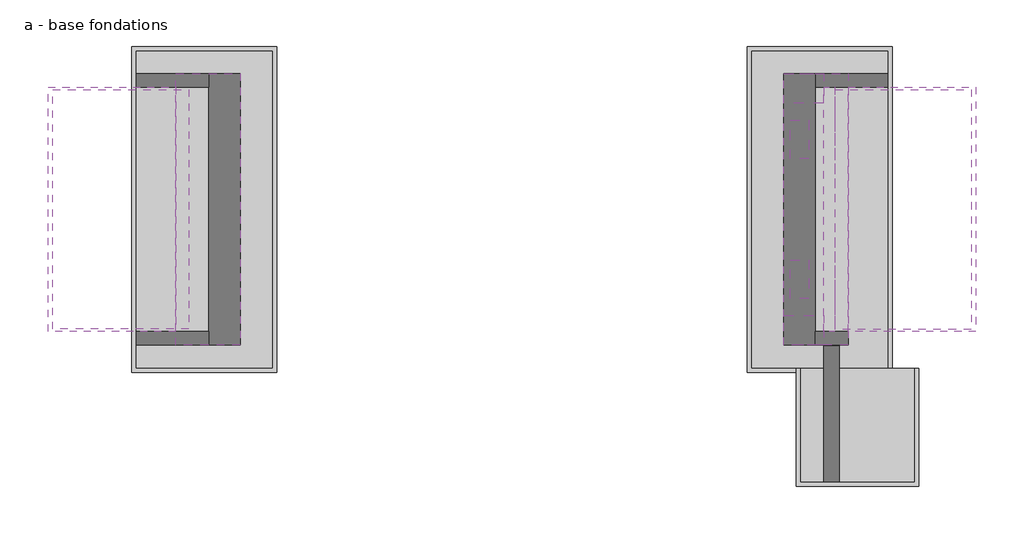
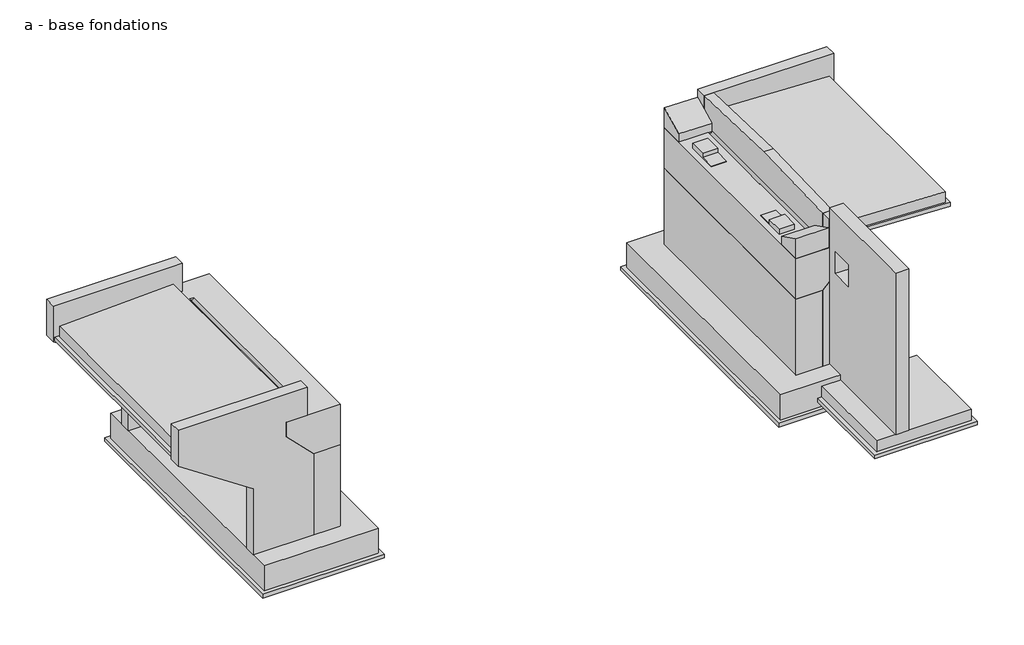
# One storey, incomplete: 24 proxies.
"""IFC4 building model written with IfcOpenShell, lengths in millimetres."""

import ifcopenshell
import ifcopenshell.guid

model = None  # the IFC model being written
_history = None  # IfcOwnerHistory: only IFC2X3 demands one
_inside = {}  # id of a spatial element -> (the spatial element, [elements in it])
_under = {}  # id of a project, library or spatial element -> (it, [spatial elements below it])
_declared = {}  # id of a project -> (the project, [libraries it declares])
_typed = {}  # id of a type object -> (the type object, [elements of that type])
_made_of = {}  # id of a material, layer set ... -> (it, [elements and type objects made of it])


def new_model(schema):
    """Start an empty IFC model of exactly this schema.

    Asked for "IFC4X3", IfcOpenShell would pick the latest addendum, in which some entities
    have other attributes; the version numbers below select the first issue.
    IFC2X3 requires an IfcOwnerHistory on every rooted entity: one is made here for all.
    """
    global model, _history
    if schema == "IFC4X3":
        model = ifcopenshell.file(schema_version=(4, 3, 0, 0))
    else:
        model = ifcopenshell.file(schema=schema)
    _inside.clear()
    _under.clear()
    _declared.clear()
    _typed.clear()
    _made_of.clear()
    _history = None
    if model.schema == "IFC2X3":
        org = make("IfcOrganization", Name="unknown")
        user = make(
            "IfcPersonAndOrganization",
            ThePerson=make("IfcPerson", FamilyName="unknown"),
            TheOrganization=org,
        )
        app = make(
            "IfcApplication",
            ApplicationDeveloper=org,
            Version="unknown",
            ApplicationFullName="unknown",
            ApplicationIdentifier="unknown",
        )
        _history = make(
            "IfcOwnerHistory",
            OwningUser=user,
            OwningApplication=app,
            ChangeAction="ADDED",
            CreationDate=0,
        )
    return model


def make(cls, **values):
    """One entity of the class cls with the attributes given. An attribute that is None is left unset."""
    return model.create_entity(
        cls, **{name: value for name, value in values.items() if value is not None}
    )


def rooted(cls, **values):
    """An entity with a GlobalId (a new one), such as an element, a storey or a relation."""
    return make(cls, GlobalId=ifcopenshell.guid.new(), OwnerHistory=_history, **values)


def si_unit(unit_type, name, prefix=None):
    """IfcSIUnit, for example si_unit("LENGTHUNIT", "METRE", prefix="MILLI")."""
    return make("IfcSIUnit", UnitType=unit_type, Prefix=prefix, Name=name)


def assignment(units):
    """IfcUnitAssignment: the units of a project."""
    return None if units is None else make("IfcUnitAssignment", Units=units)


def point(xyz):
    """IfcCartesianPoint."""
    return None if xyz is None else make("IfcCartesianPoint", Coordinates=xyz)


def direction(xyz):
    """IfcDirection."""
    return None if xyz is None else make("IfcDirection", DirectionRatios=xyz)


def frame(location, z_axis=None, x_axis=None):
    """IfcAxis2Placement3D, a coordinate frame: its origin and axes. An axis left out is left unset."""
    return make(
        "IfcAxis2Placement3D",
        Location=point(location),
        Axis=direction(z_axis),
        RefDirection=direction(x_axis),
    )


def origin():
    """The frame at (0, 0, 0) with its axes left unset."""
    return frame((0.0, 0.0, 0.0))


def origin_with_axes():
    """The frame at (0, 0, 0) with the z axis (0, 0, 1) and the x axis (1, 0, 0) written out."""
    return frame((0.0, 0.0, 0.0), z_axis=(0.0, 0.0, 1.0), x_axis=(1.0, 0.0, 0.0))


def place(relative_to, where):
    """IfcLocalPlacement: puts the frame where relative to a parent placement (None: the world)."""
    return make(
        "IfcLocalPlacement", PlacementRelTo=relative_to, RelativePlacement=where
    )


def context(
    kind, dimensions, precision=None, world=None, true_north=None, identifier=None
):
    """IfcGeometricRepresentationContext, for example the 3D "Model" context."""
    return make(
        "IfcGeometricRepresentationContext",
        ContextIdentifier=identifier,
        ContextType=kind,
        CoordinateSpaceDimension=dimensions,
        Precision=precision,
        WorldCoordinateSystem=world,
        TrueNorth=true_north,
    )


def project(units=None, contexts=None):
    """IfcProject with its units and contexts."""
    return rooted(
        "IfcProject",
        Name="project",
        RepresentationContexts=contexts,
        UnitsInContext=assignment(units),
    )


def spatial(cls, under=None, at=None, **own):
    """A site, building, storey or space (cls), placed at a placement, below another one or the project."""
    s = rooted(cls, ObjectPlacement=at, **own)
    if under is not None:
        _under.setdefault(under.id(), (under, []))[1].append(s)
    return s


def polyline(points):
    """IfcPolyline through the points."""
    return make("IfcPolyline", Points=[point(p) for p in points])


def circle_curve(where, radius):
    """IfcCircle in the frame where."""
    return make("IfcCircle", Position=where, Radius=radius)


def outline(outer, holes=None, kind="AREA"):
    """IfcArbitraryClosedProfileDef: a profile drawn as a closed curve; with holes, ...WithVoids."""
    if holes is None:
        return make("IfcArbitraryClosedProfileDef", ProfileType=kind, OuterCurve=outer)
    return make(
        "IfcArbitraryProfileDefWithVoids",
        ProfileType=kind,
        OuterCurve=outer,
        InnerCurves=holes,
    )


def extrude(swept, where, along, depth):
    """IfcExtrudedAreaSolid: the profile swept, set in the frame where, extruded along a direction by depth."""
    return make(
        "IfcExtrudedAreaSolid",
        SweptArea=swept,
        Position=where,
        ExtrudedDirection=direction(along),
        Depth=depth,
    )


def faces_of(points, faces, orient=None, outer=None):
    """IfcFace entities. A face is a list of loops; a loop is a list of indices into points, from 0.

    orient and outer hold one flag for each loop. By default every Orientation is true, the
    first loop of a face is its IfcFaceOuterBound and the others are IfcFaceBound.
    """
    made = []
    for i, loops in enumerate(faces):
        bounds = []
        for j, loop in enumerate(loops):
            is_outer = j == 0 if outer is None else outer[i][j]
            bounds.append(
                make(
                    "IfcFaceOuterBound" if is_outer else "IfcFaceBound",
                    Bound=make("IfcPolyLoop", Polygon=[points[k] for k in loop]),
                    Orientation=True if orient is None else orient[i][j],
                )
            )
        made.append(make("IfcFace", Bounds=bounds))
    return made


def faceted_brep(points, faces, orient=None, outer=None, voids=None):
    """IfcFacetedBrep: a solid bounded by flat faces; with voids (closed shells), ...WithVoids."""
    shared = [point(p) for p in points]
    hull = make("IfcClosedShell", CfsFaces=faces_of(shared, faces, orient, outer))
    if voids is None:
        return make("IfcFacetedBrep", Outer=hull)
    return make(
        "IfcFacetedBrepWithVoids",
        Outer=hull,
        Voids=[
            make(cls, CfsFaces=faces_of(shared, fs, o, b)) for cls, fs, o, b in voids
        ],
    )


def shape(context_of_items, identifier, shape_type, items):
    """IfcShapeRepresentation: the items that make up one representation, for example the "Body"."""
    return make(
        "IfcShapeRepresentation",
        ContextOfItems=context_of_items,
        RepresentationIdentifier=identifier,
        RepresentationType=shape_type,
        Items=items,
    )


def source(mapping_origin, context_of_items, identifier, shape_type, items):
    """IfcRepresentationMap: a shape defined once, which mapped items show again and again."""
    return make(
        "IfcRepresentationMap",
        MappingOrigin=mapping_origin,
        MappedRepresentation=shape(context_of_items, identifier, shape_type, items),
    )


def transform(
    local_origin,
    x_axis=None,
    y_axis=None,
    z_axis=None,
    scale=None,
    scale2=None,
    scale3=None,
    uniform=True,
):
    """IfcCartesianTransformationOperator3D, or its non-uniform kind. x_axis, y_axis, z_axis: its Axis1, 2, 3."""
    if uniform:
        return make(
            "IfcCartesianTransformationOperator3D",
            Axis1=direction(x_axis),
            Axis2=direction(y_axis),
            LocalOrigin=point(local_origin),
            Scale=scale,
            Axis3=direction(z_axis),
        )
    return make(
        "IfcCartesianTransformationOperator3DnonUniform",
        Axis1=direction(x_axis),
        Axis2=direction(y_axis),
        LocalOrigin=point(local_origin),
        Scale=scale,
        Axis3=direction(z_axis),
        Scale2=scale2,
        Scale3=scale3,
    )


def mapped(mapping_source, mapping_target):
    """IfcMappedItem: shows the shape of a source again, moved by a transform."""
    return make(
        "IfcMappedItem", MappingSource=mapping_source, MappingTarget=mapping_target
    )


def made_of(thing, what):
    """Note that an element or type object is made of a material, layer set ...; save() writes the relation."""
    if what is not None:
        _made_of.setdefault(what.id(), (what, []))[1].append(thing)
    return thing


def element(
    cls,
    number,
    at=None,
    inside=None,
    cuts=None,
    type_object=None,
    material=None,
    context=None,
    identifier="Body",
    shape_type=None,
    held_by="IfcProductDefinitionShape",
    body=None,
    shapes=None,
    **own,
):
    """One element of the class cls, such as IfcWall. Its Tag is "e" and its number.

    at: its placement. inside: the storey or other place that contains it. cuts: it is an
    opening in that element (IfcRelVoidsElement). A single representation is given by context,
    identifier, shape_type and body (its items); several are given by shapes. held_by: the class
    of the entity that holds the representations. save() writes the other relations.
    """
    e = rooted(cls, Tag="e%d" % number, ObjectPlacement=at, **own)
    if body is not None:
        shapes = [shape(context, identifier, shape_type, body)]
    if shapes is not None:
        e.Representation = make(held_by, Representations=shapes)
    if inside is not None:
        _inside.setdefault(inside.id(), (inside, []))[1].append(e)
    if cuts is not None:
        rooted(
            "IfcRelVoidsElement", RelatingBuildingElement=cuts, RelatedOpeningElement=e
        )
    if type_object is not None:
        _typed.setdefault(type_object.id(), (type_object, []))[1].append(e)
    return made_of(e, material)


def aggregate(whole, parts):
    """IfcRelAggregates: a whole, such as a stair, and the parts it consists of."""
    return rooted("IfcRelAggregates", RelatingObject=whole, RelatedObjects=parts)


def save(model, path):
    """Write the relations noted so far, then the file.

    IfcRelAggregates (storeys below a building ...), IfcRelContainedInSpatialStructure (elements
    in a storey), IfcRelDefinesByType, IfcRelAssociatesMaterial and IfcRelDeclares: one each for
    every whole, place, type object, material and project.
    """
    for whole, parts in _under.values():
        aggregate(whole, parts)
    for where, things in _inside.values():
        rooted(
            "IfcRelContainedInSpatialStructure",
            RelatedElements=things,
            RelatingStructure=where,
        )
    for kind, things in _typed.values():
        rooted("IfcRelDefinesByType", RelatedObjects=things, RelatingType=kind)
    for what, things in _made_of.values():
        rooted("IfcRelAssociatesMaterial", RelatedObjects=things, RelatingMaterial=what)
    for by, libraries in _declared.values():
        rooted("IfcRelDeclares", RelatingContext=by, RelatedDefinitions=libraries)
    model.write(path)


def plane_surface(at):
    """IfcPlane: the flat surface through the origin of the frame at, square to its z axis."""
    return make("IfcPlane", Position=at)


def revolved_surface(curve, axis_point, axis_direction):
    """IfcSurfaceOfRevolution: the curve turned about the line through axis_point along axis_direction."""
    return make(
        "IfcSurfaceOfRevolution",
        SweptCurve=make("IfcArbitraryOpenProfileDef", ProfileType="CURVE", Curve=curve),
        AxisPosition=make("IfcAxis1Placement", Location=point(axis_point), Axis=direction(axis_direction)),
    )


def advanced_brep(points, edges, surfaces, faces):
    """IfcAdvancedBrep: a solid bounded by faces that lie on surfaces and meet in shared edges.

    An edge is (start, end): straight between two places in points (the first is 0);
    or (start, end, curve); or (start, end, curve, False) where it runs against its curve.
    A face is (place in surfaces, loops), or (place, loops, False) where it looks against
    its surface's normal. A loop lists edges by number (the first is 1), with a minus sign
    where the edge is run from its end to its start. The first loop is the outer one.
    """
    corners = [point(p) for p in points]
    vertices = [make("IfcVertexPoint", VertexGeometry=c) for c in corners]
    made = []
    for start, end, *more in edges:
        made.append(
            make(
                "IfcEdgeCurve",
                EdgeStart=vertices[start],
                EdgeEnd=vertices[end],
                EdgeGeometry=more[0] if more else make("IfcPolyline", Points=[corners[start], corners[end]]),
                SameSense=more[1] if len(more) > 1 else True,
            )
        )
    hull = []
    for where, loops, *sense in faces:
        bounds = []
        for j, loop in enumerate(loops):
            ring = [make("IfcOrientedEdge", EdgeElement=made[abs(k) - 1], Orientation=k > 0) for k in loop]
            bounds.append(
                make(
                    "IfcFaceOuterBound" if j == 0 else "IfcFaceBound",
                    Bound=make("IfcEdgeLoop", EdgeList=ring),
                    Orientation=True,
                )
            )
        hull.append(make("IfcAdvancedFace", Bounds=bounds, FaceSurface=surfaces[where], SameSense=sense[0] if sense else True))
    return make("IfcAdvancedBrep", Outer=make("IfcClosedShell", CfsFaces=hull))


def generic_models_be5d55c7(model_context):
    return source(origin(), model_context, "Body", "AdvancedBrep", [
        advanced_brep(
        [(-6700.0, 3000.0, 2960.0), (-7430.0, 3000.0, 3690.0), (-7430.0, 3000.0, 4090.0), (-6000.0, 3000.0, 4090.0), (-6000.0, 3000.0, 2960.0), (-6700.0, -3000.0, 2960.0), (-6000.0, -3000.0, 2960.0), (-6000.0, -3000.0, 4090.0), (-7430.0, -3000.0, 4090.0), (-7430.0, -3000.0, 3690.0), (-6880.0, 2350.0, 4090.0), (-6780.0, 2350.0, 4090.0), (-6780.0, -2350.0, 4090.0), (-6880.0, -2350.0, 4090.0)],
        [
            (0, 1),
            (1, 2),
            (2, 3),
            (3, 4),
            (4, 0),
            (5, 6),
            (6, 7),
            (7, 8),
            (8, 9),
            (9, 5),
            (0, 5),
            (9, 1),
            (8, 2),
            (7, 3),
            (10, 11),
            (11, 12),
            (12, 13),
            (13, 10),
            (6, 4),
            (10, 11, circle_curve(frame((-6830.0, 2350.0, 4090.0), z_axis=(0.0, -1.0, 0.0), x_axis=(1.0, 0.0, 0.0)), 50.0)),
            (12, 13, circle_curve(frame((-6830.0, -2350.0, 4090.0), z_axis=(0.0, 1.0, 0.0), x_axis=(1.0, 0.0, 0.0)), 50.0)),
        ],
        [
            plane_surface(frame((-7430.0, 3000.0, 3690.0), z_axis=(0.0, 1.0, 0.0), x_axis=(-0.707106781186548, 0.0, 0.707106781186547))),
            plane_surface(frame((-7430.0, -3000.0, 3690.0), z_axis=(0.0, -1.0, 0.0), x_axis=(0.707106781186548, 0.0, -0.707106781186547))),
            plane_surface(frame((-6700.0, 3000.0, 2960.0), z_axis=(-0.707106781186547, 0.0, -0.707106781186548), x_axis=(0.0, -1.0, 0.0))),
            plane_surface(frame((-7430.0, 3000.0, 3690.0), z_axis=(-1.0, 0.0, 0.0), x_axis=(0.0, -1.0, 0.0))),
            plane_surface(frame((-7430.0, 3000.0, 4090.0), z_axis=(0.0, 0.0, 1.0), x_axis=(0.0, -1.0, 0.0))),
            plane_surface(frame((-6000.0, 3000.0, 4090.0), z_axis=(1.0, 0.0, 0.0), x_axis=(0.0, -1.0, 0.0))),
            plane_surface(frame((-6000.0, 3000.0, 2960.0), z_axis=(0.0, 0.0, -1.0), x_axis=(0.0, -1.0, 0.0))),
            plane_surface(frame((-6780.0, 2350.0, 4090.0), z_axis=(0.0, -1.0, 0.0), x_axis=(0.0, 0.0, -1.0))),
            plane_surface(frame((-6780.0, -2350.0, 4090.0), z_axis=(0.0, 1.0, 0.0), x_axis=(0.0, 0.0, 1.0))),
            revolved_surface(polyline([(-6780.0, 2350.0, 4090.0), (-6780.0, -2350.0, 4090.0)]), (-6830.0, -2350.0, 4090.0), (0.0, 1.0, 0.0)),
        ],
        [
            (0, [[1, 2, 3, 4, 5]]),
            (1, [[6, 7, 8, 9, 10]]),
            (2, [[-1, 11, -10, 12]]),
            (3, [[-2, -12, -9, 13]]),
            (4, [[-3, -13, -8, 14], [15, 16, 17, 18]]),
            (5, [[-4, -14, -7, 19]]),
            (6, [[-5, -19, -6, -11]]),
            (7, [[20, -15]]),
            (8, [[21, -17]]),
            (9, [[-20, -18, -21, -16]]),
        ],
    ),
    ])


def generic_models_2a3ef5ed(model_context):
    return source(origin(), model_context, "Body", "Brep", [
        faceted_brep([(6880.0, -3000.0, 4496.0), (6880.0, -3000.0, 3950.0), (6880.0, -2350.0, 3950.0), (6880.0, -2350.0, 4171.0), (6000.0, -3000.0, 4506.0), (6000.0, -2350.0, 4181.0), (6000.0, -2350.0, 3950.0), (6000.0, -3000.0, 3950.0)], [[[0, 1, 2, 3]], [[4, 5, 6, 7]], [[4, 7, 1, 0]], [[7, 6, 2, 1]], [[6, 5, 3, 2]], [[5, 4, 0, 3]]]),
    ])


def generic_models_bdcedec3(model_context):
    return source(origin(), model_context, "Body", "SweptSolid", [
        extrude(outline(polyline([(2700.0, 3950.0), (-2700.0, 3950.0), (-2700.0, 4718.0), (0.0, 4793.0), (2700.0, 4718.0), (2700.0, 3950.0)])), frame((6880.0, 0.0, 0.0), z_axis=(1.0, 0.0, 0.0), x_axis=(0.0, 1.0, 0.0)), (0.0, 0.0, 1.0), 250.0),
    ])


def generic_models_05d79722(model_context):
    return source(origin(), model_context, "Body", "SweptSolid", [
        extrude(outline(polyline([(4098.4, -7430.0), (3986.0, -10240.0), (3886.0, -10240.0), (3998.4, -7430.0), (4098.4, -7430.0)])), frame((0.0, -2700.0, 0.0), z_axis=(0.0, 1.0, 0.0), x_axis=(0.0, 0.0, 1.0)), (0.0, 0.0, 1.0), 5400.0),
    ])


def generic_models_34461063(model_context):
    return source(origin(), model_context, "Body", "SweptSolid", [
        extrude(outline(polyline([(1975.0, 4230.0), (1975.0, 4090.0), (1125.0, 4090.0), (1125.0, 4110.0), (1525.0, 4110.0), (1525.0, 4230.0), (1975.0, 4230.0)])), frame((6150.0, 0.0, 0.0), z_axis=(1.0, 0.0, 0.0), x_axis=(0.0, 1.0, 0.0)), (0.0, 0.0, 1.0), 400.0),
    ])


def generic_models_d45a0df8(model_context):
    return source(origin(), model_context, "Body", "SweptSolid", [
        extrude(outline(polyline([(-1975.0, 4230.0), (-1525.0, 4230.0), (-1525.0, 4110.0), (-1125.0, 4110.0), (-1125.0, 4090.0), (-1975.0, 4090.0), (-1975.0, 4230.0)])), frame((6150.0, 0.0, 0.0), z_axis=(1.0, 0.0, 0.0), x_axis=(0.0, 1.0, 0.0)), (0.0, 0.0, 1.0), 400.0),
    ])


def generic_models_f3c05cdf(model_context):
    return source(origin(), model_context, "Body", "SweptSolid", [
        extrude(outline(polyline([(4098.4, 7430.0), (3998.4, 7430.0), (3886.0, 10240.0), (3986.0, 10240.0), (4098.4, 7430.0)])), frame((0.0, -2700.0, 0.0), z_axis=(0.0, 1.0, 0.0), x_axis=(0.0, 0.0, 1.0)), (0.0, 0.0, 1.0), 5400.0),
    ])


def generic_models_c2a7ebc0(model_context):
    return source(origin(), model_context, "Body", "Brep", [
        faceted_brep([(6880.0, 3000.0, 4496.0), (6880.0, 2350.0, 4171.0), (6880.0, 2350.0, 3950.0), (6880.0, 3000.0, 3950.0), (6000.0, 3000.0, 4506.0), (6000.0, 3000.0, 3950.0), (6000.0, 2350.0, 3950.0), (6000.0, 2350.0, 4181.0)], [[[0, 1, 2, 3]], [[4, 5, 6, 7]], [[5, 4, 0, 3]], [[6, 5, 3, 2]], [[7, 6, 2, 1]], [[4, 7, 1, 0]]]),
    ])


def dalle_de_transition_c0_dalle_de_transition_33fbf230(model_context):
    return source(origin(), model_context, "Body", "SweptSolid", [
        extrude(outline(polyline([(4410.0, -7140.0), (4290.0, -10140.0), (3990.0, -10140.0), (4110.0, -7140.0), (4410.0, -7140.0)])), frame((0.0, -2650.0, 0.0), z_axis=(0.0, 1.0, 0.0), x_axis=(0.0, 0.0, 1.0)), (0.0, 0.0, 1.0), 5300.0),
    ])


def dalle_de_transition_c1_dalle_de_transition_7af641cf(model_context):
    return source(origin(), model_context, "Body", "SweptSolid", [
        extrude(outline(polyline([(4410.0, 7140.0), (4110.0, 7140.0), (3990.0, 10140.0), (4290.0, 10140.0), (4410.0, 7140.0)])), frame((0.0, -2650.0, 0.0), z_axis=(0.0, 1.0, 0.0), x_axis=(0.0, 0.0, 1.0)), (0.0, 0.0, 1.0), 5300.0),
    ])


model = new_model("IFC4")

# Units and contexts
model_context = context("Model", 3, world=origin())
ifc_project = project(units=[si_unit("LENGTHUNIT", "METRE", prefix="MILLI")], contexts=[model_context])

# Site, building, storey
site = spatial("IfcSite", under=ifc_project)
building = spatial("IfcBuilding", under=site)
storey = spatial("IfcBuildingStorey", under=building, Name="a - base fondations", Elevation=0.0)

# Proxies
placement = place(None, origin())
element("IfcBuildingElementProxy", 1, Name="Chevêtre C1 : Chevêtre", ObjectType="Chevêtre C1 : Chevêtre", at=placement, inside=storey, context=model_context, shape_type="AdvancedBrep", body=[
    advanced_brep(
    [(6700.0, 3000.0, 2820.0), (6000.0, 3000.0, 2820.0), (6000.0, 3000.0, 3950.0), (7430.0, 3000.0, 3950.0), (7430.0, 3000.0, 3550.0), (6700.0, -3000.0, 2820.0), (7430.0, -3000.0, 3550.0), (7430.0, -3000.0, 3950.0), (6000.0, -3000.0, 3950.0), (6000.0, -3000.0, 2820.0), (6780.0, 2350.0, 3950.0), (6880.0, 2350.0, 3950.0), (6880.0, -2350.0, 3950.0), (6780.0, -2350.0, 3950.0)],
    [
        (0, 1),
        (1, 2),
        (2, 3),
        (3, 4),
        (4, 0),
        (5, 6),
        (6, 7),
        (7, 8),
        (8, 9),
        (9, 5),
        (4, 6),
        (5, 0),
        (3, 7),
        (2, 8),
        (10, 11),
        (11, 12),
        (12, 13),
        (13, 10),
        (1, 9),
        (10, 11, circle_curve(frame((6830.0, 2350.0, 3950.0), z_axis=(0.0, -1.0, 0.0), x_axis=(1.0, 0.0, 0.0)), 50.0)),
        (12, 13, circle_curve(frame((6830.0, -2350.0, 3950.0), z_axis=(0.0, 1.0, 0.0), x_axis=(1.0, 0.0, 0.0)), 50.0)),
    ],
    [
        plane_surface(frame((6000.0, 3000.0, 2820.0), z_axis=(0.0, 1.0, 0.0), x_axis=(-1.0, 0.0, 0.0))),
        plane_surface(frame((6000.0, -3000.0, 2820.0), z_axis=(0.0, -1.0, 0.0), x_axis=(1.0, 0.0, 0.0))),
        plane_surface(frame((7430.0, 3000.0, 3550.0), z_axis=(0.707106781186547, 0.0, -0.707106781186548), x_axis=(0.0, -1.0, 0.0))),
        plane_surface(frame((7430.0, 3000.0, 3950.0), z_axis=(1.0, 0.0, 0.0), x_axis=(0.0, -1.0, 0.0))),
        plane_surface(frame((6000.0, 3000.0, 3950.0), z_axis=(0.0, 0.0, 1.0), x_axis=(0.0, -1.0, 0.0))),
        plane_surface(frame((6000.0, 3000.0, 2820.0), z_axis=(-1.0, 0.0, 0.0), x_axis=(0.0, -1.0, 0.0))),
        plane_surface(frame((6700.0, 3000.0, 2820.0), z_axis=(0.0, 0.0, -1.0), x_axis=(0.0, -1.0, 0.0))),
        plane_surface(frame((6880.0, 2350.0, 3950.0), z_axis=(0.0, -1.0, 0.0), x_axis=(1.0, 0.0, 0.0))),
        plane_surface(frame((6880.0, -2350.0, 3950.0), z_axis=(0.0, 1.0, 0.0), x_axis=(-1.0, 0.0, 0.0))),
        revolved_surface(polyline([(6880.0, 2350.0, 3950.0), (6880.0, -2350.0, 3950.0)]), (6830.0, -2350.0, 3950.0), (0.0, 1.0, 0.0)),
    ],
    [
        (0, [[1, 2, 3, 4, 5]]),
        (1, [[6, 7, 8, 9, 10]]),
        (2, [[-5, 11, -6, 12]]),
        (3, [[-4, 13, -7, -11]]),
        (4, [[-3, 14, -8, -13], [15, 16, 17, 18]]),
        (5, [[-2, 19, -9, -14]]),
        (6, [[-1, -12, -10, -19]]),
        (7, [[20, -15]]),
        (8, [[21, -17]]),
        (9, [[-20, -18, -21, -16]]),
    ],
),
])
element("IfcBuildingElementProxy", 2, Name="mur en retour C0a : mur en retour 01", ObjectType="mur en retour C0a : mur en retour 01", at=placement, inside=storey, context=model_context, shape_type="SweptSolid", body=[
    extrude(outline(polyline([(2551.0, -8300.0), (700.0, -8300.0), (700.0, -6700.0), (2960.0, -6700.0), (3690.0, -7430.0), (4090.0, -7430.0), (4090.0, -6880.0), (4871.0, -6880.0), (4871.0, -10280.0), (3871.0, -10280.0), (2551.0, -8300.0)])), frame((0.0, -3000.0, 0.0), z_axis=(0.0, 1.0, 0.0), x_axis=(0.0, 0.0, 1.0)), (0.0, 0.0, 1.0), 300.0),
])
element("IfcBuildingElementProxy", 3, Name="mur en retour C0b : mur en retour 01", ObjectType="mur en retour C0b : mur en retour 01", at=placement, inside=storey, context=model_context, shape_type="SweptSolid", body=[
    extrude(outline(polyline([(2551.0, -8300.0), (700.0, -8300.0), (700.0, -6700.0), (2960.0, -6700.0), (3690.0, -7430.0), (4090.0, -7430.0), (4090.0, -6880.0), (4871.0, -6880.0), (4871.0, -10280.0), (3871.0, -10280.0), (2551.0, -8300.0)])), frame((0.0, 2700.0, 0.0), z_axis=(0.0, 1.0, 0.0), x_axis=(0.0, 0.0, 1.0)), (0.0, 0.0, 1.0), 300.0),
])
element("IfcBuildingElementProxy", 4, Name="mur en retour C1b : mur en retour 01", ObjectType="mur en retour C1b : mur en retour 01", at=placement, inside=storey, context=model_context, shape_type="SweptSolid", body=[
    extrude(outline(polyline([(2411.0, 8300.0), (3731.0, 10280.0), (4718.0, 10280.0), (4718.0, 6880.0), (3950.0, 6880.0), (3950.0, 7430.0), (3550.0, 7430.0), (2820.0, 6700.0), (700.0, 6700.0), (700.0, 8300.0), (2411.0, 8300.0)])), frame((0.0, 2700.0, 0.0), z_axis=(0.0, 1.0, 0.0), x_axis=(0.0, 0.0, 1.0)), (0.0, 0.0, 1.0), 300.0),
])
element("IfcBuildingElementProxy", 5, Name="Béton propreté semelle S0 : Béton propreté semelle", ObjectType="Béton propreté semelle S0 : Béton propreté semelle", at=placement, inside=storey, context=model_context, shape_type="SweptSolid", body=[
    extrude(outline(polyline([(-5200.0, -3600.0), (-8400.0, -3600.0), (-8400.0, 3600.0), (-5200.0, 3600.0), (-5200.0, -3600.0)])), frame((0.0, 0.0, -100.0), z_axis=(0.0, 0.0, 1.0), x_axis=(1.0, 0.0, 0.0)), (0.0, 0.0, 1.0), 100.0),
])
element("IfcBuildingElementProxy", 6, Name="Béton propreté semelle S1 : Béton propreté semelle", ObjectType="Béton propreté semelle S1 : Béton propreté semelle", at=placement, inside=storey, context=model_context, shape_type="SweptSolid", body=[
    extrude(outline(polyline([(5200.0, -3600.0), (5200.0, 3600.0), (8400.0, 3600.0), (8400.0, -3600.0), (5200.0, -3600.0)])), frame((0.0, 0.0, -100.0), z_axis=(0.0, 0.0, 1.0), x_axis=(1.0, 0.0, 0.0)), (0.0, 0.0, 1.0), 100.0),
])
element("IfcBuildingElementProxy", 7, Name="mur en retour C1a : mur en retour 01", ObjectType="mur en retour C1a : mur en retour 01", at=placement, inside=storey, context=model_context, shape_type="SweptSolid", body=[
    extrude(outline(polyline([(6880.0, -2700.0), (7430.0, -2700.0), (7430.0, -3000.0), (6880.0, -3000.0), (6880.0, -2700.0)])), frame((0.0, 0.0, 3950.0), z_axis=(0.0, 0.0, 1.0), x_axis=(1.0, 0.0, 0.0)), (0.0, 0.0, 1.0), 768.0),
    extrude(outline(polyline([(3550.0, 7430.0), (2820.0, 6700.0), (700.0, 6700.0), (700.0, 7430.0), (3550.0, 7430.0)])), frame((0.0, -3000.0, 0.0), z_axis=(0.0, 1.0, 0.0), x_axis=(0.0, 0.0, 1.0)), (0.0, 0.0, 1.0), 300.0),
])
element("IfcBuildingElementProxy", 8, Name="Mur en retour indépendant : Mur en retour indépendant", ObjectType="Mur en retour indépendant : Mur en retour indépendant", at=placement, inside=storey, context=model_context, shape_type="SweptSolid", body=[
    extrude(outline(polyline([(-6020.0, 570.0), (-6020.0, 5070.0), (-3020.0, 5070.0), (-3020.0, 720.0), (-3520.0, 720.0), (-3520.0, 570.0), (-6020.0, 570.0)]), holes=[polyline([(-3870.0, 3990.0), (-3870.0, 3390.0), (-3270.0, 3390.0), (-3270.0, 3990.0), (-3870.0, 3990.0)])]), frame((6880.0, 0.0, 0.0), z_axis=(1.0, 0.0, 0.0), x_axis=(0.0, 1.0, 0.0)), (0.0, 0.0, 1.0), 350.0),
])
element("IfcBuildingElementProxy", 9, Name="Semelle mur indépendant : semelle mur indépendant", ObjectType="Semelle mur indépendant : semelle mur indépendant", at=placement, inside=storey, context=model_context, shape_type="SweptSolid", body=[
    extrude(outline(polyline([(8880.0, -6020.0), (6380.0, -6020.0), (6380.0, -3520.0), (8880.0, -3520.0), (8880.0, -6020.0)])), frame((0.0, 0.0, 270.0), z_axis=(0.0, 0.0, 1.0), x_axis=(1.0, 0.0, 0.0)), (0.0, 0.0, 1.0), 300.0),
])
element("IfcBuildingElementProxy", 10, Name="béton de propreté mur ind : béton propreté 2", ObjectType="béton de propreté mur ind : béton propreté 2", at=placement, inside=storey, context=model_context, shape_type="SweptSolid", body=[
    extrude(outline(polyline([(8980.0, -6120.0), (6280.0, -6120.0), (6280.0, -3520.0), (8980.0, -3520.0), (8980.0, -6120.0)])), frame((0.0, 0.0, 170.0), z_axis=(0.0, 0.0, 1.0), x_axis=(1.0, 0.0, 0.0)), (0.0, 0.0, 1.0), 100.0),
])
generic_models_shape = generic_models_be5d55c7(model_context)
element("IfcBuildingElementProxy", 11, Name="Chevêtre C0 : Chevêtre", ObjectType="Chevêtre C0 : Chevêtre", at=placement, inside=storey, context=model_context, shape_type="MappedRepresentation", body=[
    mapped(generic_models_shape, transform((0.0, 0.0, 0.0), x_axis=(1.0, 0.0, 0.0), y_axis=(0.0, 1.0, 0.0), z_axis=(0.0, 0.0, 1.0))),
])
generic_models_2_shape = generic_models_2a3ef5ed(model_context)
element("IfcBuildingElementProxy", 12, Name="Murs caches C1a : Mus caches 1", ObjectType="Murs caches C1a : Mus caches 1", at=placement, inside=storey, context=model_context, shape_type="MappedRepresentation", body=[
    mapped(generic_models_2_shape, transform((0.0, 0.0, 0.0), x_axis=(1.0, 0.0, 0.0), y_axis=(0.0, 1.0, 0.0), z_axis=(0.0, 0.0, 1.0))),
])
generic_models_3_shape = generic_models_bdcedec3(model_context)
element("IfcBuildingElementProxy", 13, Name="Mur garde grève C1 : Mur garde grève 1", ObjectType="Mur garde grève C1 : Mur garde grève 1", at=placement, inside=storey, context=model_context, shape_type="MappedRepresentation", body=[
    mapped(generic_models_3_shape, transform((0.0, 0.0, 0.0), x_axis=(1.0, 0.0, 0.0), y_axis=(0.0, 1.0, 0.0), z_axis=(0.0, 0.0, 1.0))),
])
generic_models_4_shape = generic_models_05d79722(model_context)
element("IfcBuildingElementProxy", 14, Name="Béton de propreté DT C0 : Béton de propreté 02", ObjectType="Béton de propreté DT C0 : Béton de propreté 02", at=placement, inside=storey, context=model_context, shape_type="MappedRepresentation", body=[
    mapped(generic_models_4_shape, transform((0.0, 0.0, 0.0), x_axis=(1.0, 0.0, 0.0), y_axis=(0.0, 1.0, 0.0), z_axis=(0.0, 0.0, 1.0))),
])
generic_models_5_shape = generic_models_34461063(model_context)
element("IfcBuildingElementProxy", 15, Name="bossages appuis C1b : bossages appuis", ObjectType="bossages appuis C1b : bossages appuis", at=placement, inside=storey, context=model_context, shape_type="MappedRepresentation", body=[
    mapped(generic_models_5_shape, transform((0.0, 0.0, -140.0), x_axis=(1.0, 0.0, 0.0), y_axis=(0.0, 1.0, 0.0), z_axis=(0.0, 0.0, 1.0))),
])
generic_models_6_shape = generic_models_d45a0df8(model_context)
element("IfcBuildingElementProxy", 16, Name="bossages appuis C1a : bossages appuis", ObjectType="bossages appuis C1a : bossages appuis", at=placement, inside=storey, context=model_context, shape_type="MappedRepresentation", body=[
    mapped(generic_models_6_shape, transform((0.0, 0.0, -140.0), x_axis=(1.0, 0.0, 0.0), y_axis=(0.0, 1.0, 0.0), z_axis=(0.0, 0.0, 1.0))),
])
generic_models_7_shape = generic_models_f3c05cdf(model_context)
element("IfcBuildingElementProxy", 17, Name="Béton de propreté DT C1 : Béton de propreté 02", ObjectType="Béton de propreté DT C1 : Béton de propreté 02", at=placement, inside=storey, context=model_context, shape_type="MappedRepresentation", body=[
    mapped(generic_models_7_shape, transform((0.0, 0.0, -140.0), x_axis=(1.0, 0.0, 0.0), y_axis=(0.0, 1.0, 0.0), z_axis=(0.0, 0.0, 1.0))),
])
generic_models_8_shape = generic_models_c2a7ebc0(model_context)
element("IfcBuildingElementProxy", 18, Name="Murs caches C1b : Mus caches 1", ObjectType="Murs caches C1b : Mus caches 1", at=placement, inside=storey, context=model_context, shape_type="MappedRepresentation", body=[
    mapped(generic_models_8_shape, transform((0.0, 0.0, 0.0), x_axis=(1.0, 0.0, 0.0), y_axis=(0.0, 1.0, 0.0), z_axis=(0.0, 0.0, 1.0))),
])
element("IfcBuildingElementProxy", 19, Name="Semelle S0 : semelle", ObjectType="Semelle S0 : semelle", at=placement, inside=storey, context=model_context, shape_type="SweptSolid", body=[
    extrude(outline(polyline([(-8300.0, 3500.0), (-5300.0, 3500.0), (-5300.0, -3500.0), (-8300.0, -3500.0), (-8300.0, 3500.0)])), origin_with_axes(), (0.0, 0.0, 1.0), 700.0),
])
element("IfcBuildingElementProxy", 20, Name="Semelle S1 : semelle", ObjectType="Semelle S1 : semelle", at=placement, inside=storey, context=model_context, shape_type="SweptSolid", body=[
    extrude(outline(polyline([(5300.0, 3500.0), (8300.0, 3500.0), (8300.0, -3500.0), (5300.0, -3500.0), (5300.0, 3500.0)])), origin_with_axes(), (0.0, 0.0, 1.0), 700.0),
])
dalle_de_transition_c0_dalle_de_transition_shape = dalle_de_transition_c0_dalle_de_transition_33fbf230(model_context)
element("IfcBuildingElementProxy", 21, Name="dalle de transition C0 : dalle de transition", ObjectType="dalle de transition C0 : dalle de transition", at=placement, inside=storey, context=model_context, shape_type="MappedRepresentation", body=[
    mapped(dalle_de_transition_c0_dalle_de_transition_shape, transform((0.0, 0.0, 0.0), x_axis=(1.0, 0.0, 0.0), y_axis=(0.0, 1.0, 0.0), z_axis=(0.0, 0.0, 1.0))),
])
dalle_de_transition_c1_dalle_de_transition_shape = dalle_de_transition_c1_dalle_de_transition_7af641cf(model_context)
element("IfcBuildingElementProxy", 22, Name="dalle de transition C1 : dalle de transition", ObjectType="dalle de transition C1 : dalle de transition", at=placement, inside=storey, context=model_context, shape_type="MappedRepresentation", body=[
    mapped(dalle_de_transition_c1_dalle_de_transition_shape, transform((0.0, 0.0, -140.0), x_axis=(1.0, 0.0, 0.0), y_axis=(0.0, 1.0, 0.0), z_axis=(0.0, 0.0, 1.0))),
])
element("IfcBuildingElementProxy", 23, Name="mur de front C0 : mur de front", ObjectType="mur de front C0 : mur de front", at=placement, inside=storey, context=model_context, shape_type="SweptSolid", body=[
    extrude(outline(polyline([(-6700.0, 3000.0), (-6000.0, 3000.0), (-6000.0, -3000.0), (-6700.0, -3000.0), (-6700.0, 3000.0)])), frame((0.0, 0.0, 700.0), z_axis=(0.0, 0.0, 1.0), x_axis=(1.0, 0.0, 0.0)), (0.0, 0.0, 1.0), 2260.0),
])
element("IfcBuildingElementProxy", 24, Name="mur de front C1 : mur de front", ObjectType="mur de front C1 : mur de front", at=placement, inside=storey, context=model_context, shape_type="SweptSolid", body=[
    extrude(outline(polyline([(6000.0, 3000.0), (6700.0, 3000.0), (6700.0, -3000.0), (6000.0, -3000.0), (6000.0, 3000.0)])), frame((0.0, 0.0, 700.0), z_axis=(0.0, 0.0, 1.0), x_axis=(1.0, 0.0, 0.0)), (0.0, 0.0, 1.0), 2120.0),
])

save(model, "model.ifc")
